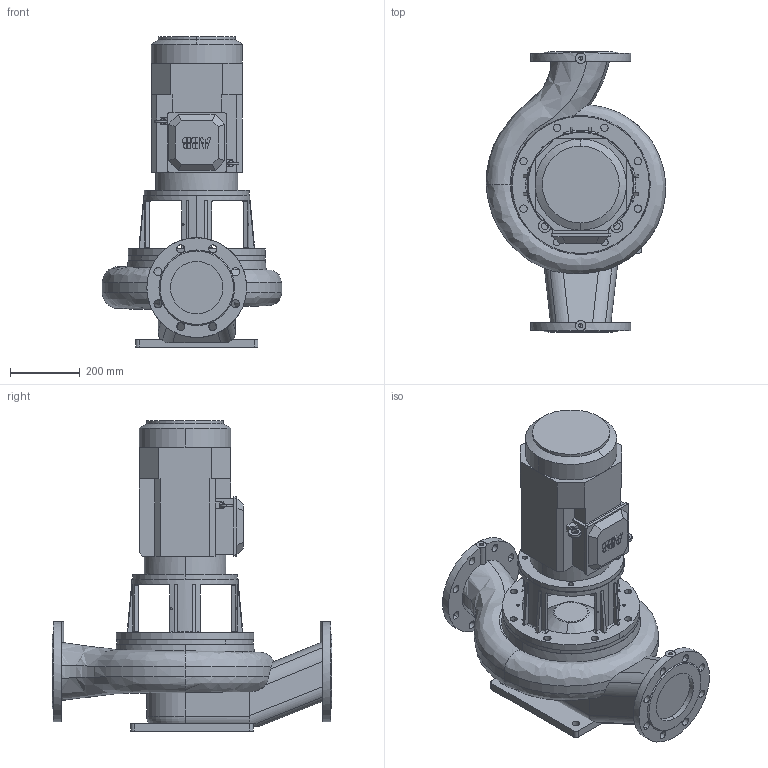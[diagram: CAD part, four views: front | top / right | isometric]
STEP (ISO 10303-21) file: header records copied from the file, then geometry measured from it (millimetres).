
FILE_DESCRIPTION(('STEP AP214'),'1');
FILE_NAME('export.stp','2018-05-30T06:36:24',(' '),(' '),'Spatial InterOp 3D',' ',' ');
FILE_SCHEMA(('AUTOMOTIVE_DESIGN { 1 0 10303 214 1 1 1 1 }'));
Length unit declared in the file: millimetre
Products named in the file (8): W_ALP11534SD750; V_TLL100SAL1202; V_PPALP1153; PPALP1153_Kesken; Tukijalka_ALP1128; IEC132_FRAME; IEC-132; P100906
Assembly tree (7 placements, depth 3):
  W_ALP11534SD750
    V_TLL100SAL1202
    V_PPALP1153
      PPALP1153_Kesken
      Tukijalka_ALP1128
    IEC132_FRAME
      IEC-132
      P100906
Bounding box: 512.85 x 800 x 887 mm (x, y, z)
Volume: 67550002 mm3; surface area: 2787337.8 mm2
Topology: 5 solids, 5 shells, 515 faces, 1408 edges, 933 vertices
Faces by surface type: cylinder 222, plane 219, torus 26, cone 24, bspline 24
Entity records: 23772 total; most frequent: CARTESIAN_POINT 6875, ORIENTED_EDGE 2808, DIRECTION 2640, EDGE_CURVE 1404, AXIS2_PLACEMENT_3D 981, VERTEX_POINT 933, LINE 678, VECTOR 678
